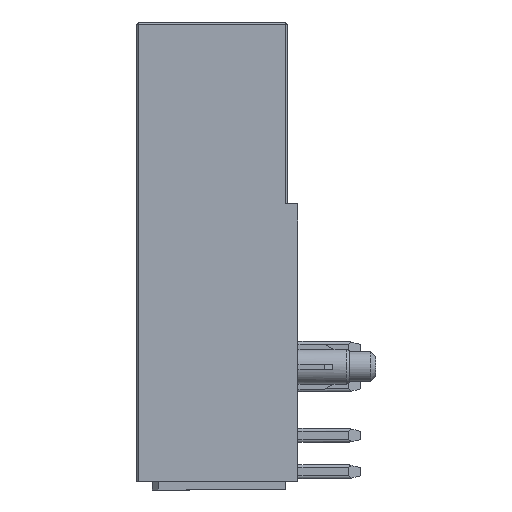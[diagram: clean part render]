
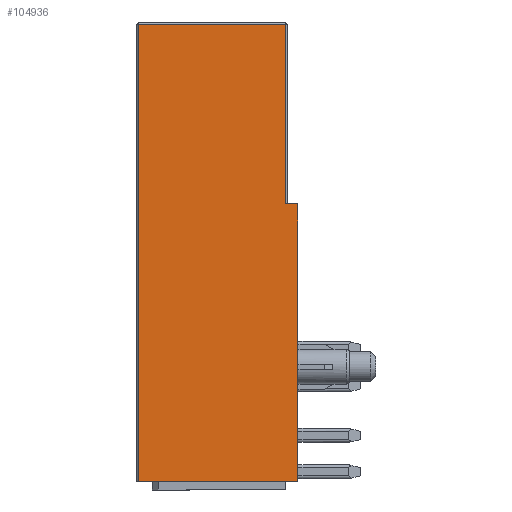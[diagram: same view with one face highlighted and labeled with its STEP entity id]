
A CAD part, left-side view. The second image highlights one B-rep face of the part: STEP entity #104936.
In plain terms, the highlighted planar face has unit normal (-1, 0, 0).
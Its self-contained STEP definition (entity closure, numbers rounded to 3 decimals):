
#1839 = LINE ( 'NONE', #1842, #1895 ) ;
#1842 = CARTESIAN_POINT ( 'NONE',  ( -112.777, 18.284, 11.375 ) ) ;
#1844 = DIRECTION ( 'NONE',  ( 0., 0., -1. ) ) ;
#1895 = VECTOR ( 'NONE', #1844, 1000. ) ;
#10561 = VECTOR ( 'NONE', #52900, 1000. ) ;
#10590 = VECTOR ( 'NONE', #53009, 1000. ) ;
#20293 = EDGE_LOOP ( 'NONE', ( #105651, #105652, #105654, #105655, #105656, #105658 ) ) ;
#25168 = VECTOR ( 'NONE', #91660, 1000. ) ;
#46655 = EDGE_CURVE ( 'NONE', #80208, #79397, #52895, .T. ) ;
#46668 = EDGE_CURVE ( 'NONE', #79385, #80208, #53006, .T. ) ;
#47487 = EDGE_CURVE ( 'NONE', #79361, #79397, #91657, .T. ) ;
#52895 = LINE ( 'NONE', #52898, #10561 ) ;
#52898 = CARTESIAN_POINT ( 'NONE',  ( -112.777, 18.884, 11.375 ) ) ;
#52900 = DIRECTION ( 'NONE',  ( 0., 0., -1. ) ) ;
#53006 = LINE ( 'NONE', #53007, #10590 ) ;
#53007 = CARTESIAN_POINT ( 'NONE',  ( -112.777, 26.434, 11.275 ) ) ;
#53009 = DIRECTION ( 'NONE',  ( 0., -1., 0. ) ) ;
#60735 = AXIS2_PLACEMENT_3D ( 'NONE', #86926, #86928, #86930 ) ;
#67527 = CARTESIAN_POINT ( 'NONE',  ( -112.777, 18.284, 2.375 ) ) ;
#67558 = CARTESIAN_POINT ( 'NONE',  ( -112.777, 26.184, 11.275 ) ) ;
#67573 = CARTESIAN_POINT ( 'NONE',  ( -112.777, 18.884, 2.375 ) ) ;
#67594 = CARTESIAN_POINT ( 'NONE',  ( -112.777, 18.284, -11.375 ) ) ;
#67738 = CARTESIAN_POINT ( 'NONE',  ( -112.777, 26.184, -11.375 ) ) ;
#76108 = CARTESIAN_POINT ( 'NONE',  ( -112.777, 18.884, 11.275 ) ) ;
#79361 = VERTEX_POINT ( 'NONE', #67527 ) ;
#79385 = VERTEX_POINT ( 'NONE', #67558 ) ;
#79397 = VERTEX_POINT ( 'NONE', #67573 ) ;
#79414 = VERTEX_POINT ( 'NONE', #67594 ) ;
#79526 = VERTEX_POINT ( 'NONE', #67738 ) ;
#80208 = VERTEX_POINT ( 'NONE', #76108 ) ;
#85690 = FACE_OUTER_BOUND ( 'NONE', #20293, .T. ) ;
#85694 = PLANE ( 'NONE',  #60735 ) ;
#86926 = CARTESIAN_POINT ( 'NONE',  ( -112.777, 26.434, 11.375 ) ) ;
#86928 = DIRECTION ( 'NONE',  ( 1., 0., 0. ) ) ;
#86930 = DIRECTION ( 'NONE',  ( 0., 0., -1. ) ) ;
#88027 = CARTESIAN_POINT ( 'NONE',  ( -112.777, 18.384, -11.375 ) ) ;
#88028 = LINE ( 'NONE', #88027, #94774 ) ;
#88054 = DIRECTION ( 'NONE',  ( 0., -1., 0. ) ) ;
#88087 = LINE ( 'NONE', #88089, #94783 ) ;
#88089 = CARTESIAN_POINT ( 'NONE',  ( -112.777, 26.184, 11.375 ) ) ;
#88091 = DIRECTION ( 'NONE',  ( 0., 0., -1. ) ) ;
#91657 = LINE ( 'NONE', #91659, #25168 ) ;
#91659 = CARTESIAN_POINT ( 'NONE',  ( -112.777, 18.384, 2.375 ) ) ;
#91660 = DIRECTION ( 'NONE',  ( 0., 1., 0. ) ) ;
#94774 = VECTOR ( 'NONE', #88054, 1000. ) ;
#94783 = VECTOR ( 'NONE', #88091, 1000. ) ;
#104936 = ADVANCED_FACE ( 'NONE', ( #85690 ), #85694, .F. ) ;
#105170 = EDGE_CURVE ( 'NONE', #79526, #79414, #88028, .T. ) ;
#105172 = EDGE_CURVE ( 'NONE', #79385, #79526, #88087, .T. ) ;
#105288 = EDGE_CURVE ( 'NONE', #79361, #79414, #1839, .T. ) ;
#105651 = ORIENTED_EDGE ( 'NONE', *, *, #105172, .T. ) ;
#105652 = ORIENTED_EDGE ( 'NONE', *, *, #105170, .T. ) ;
#105654 = ORIENTED_EDGE ( 'NONE', *, *, #105288, .F. ) ;
#105655 = ORIENTED_EDGE ( 'NONE', *, *, #47487, .T. ) ;
#105656 = ORIENTED_EDGE ( 'NONE', *, *, #46655, .F. ) ;
#105658 = ORIENTED_EDGE ( 'NONE', *, *, #46668, .F. ) ;
